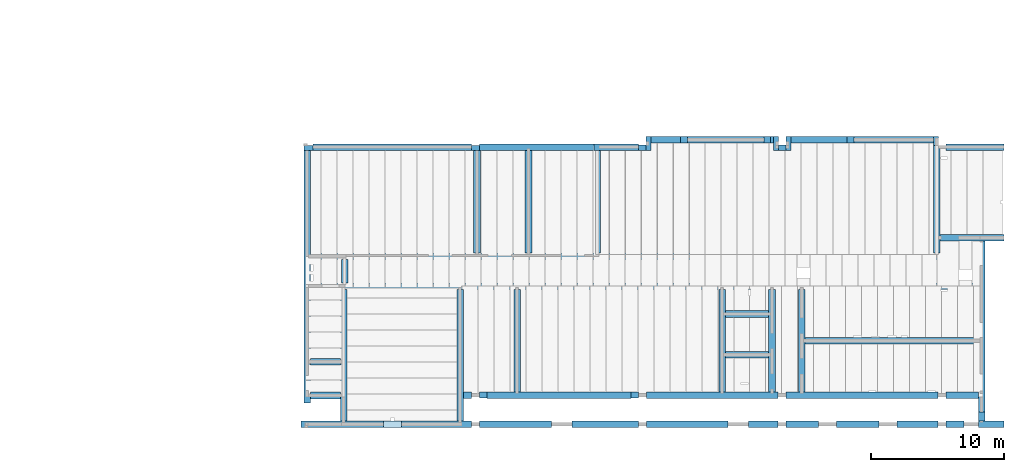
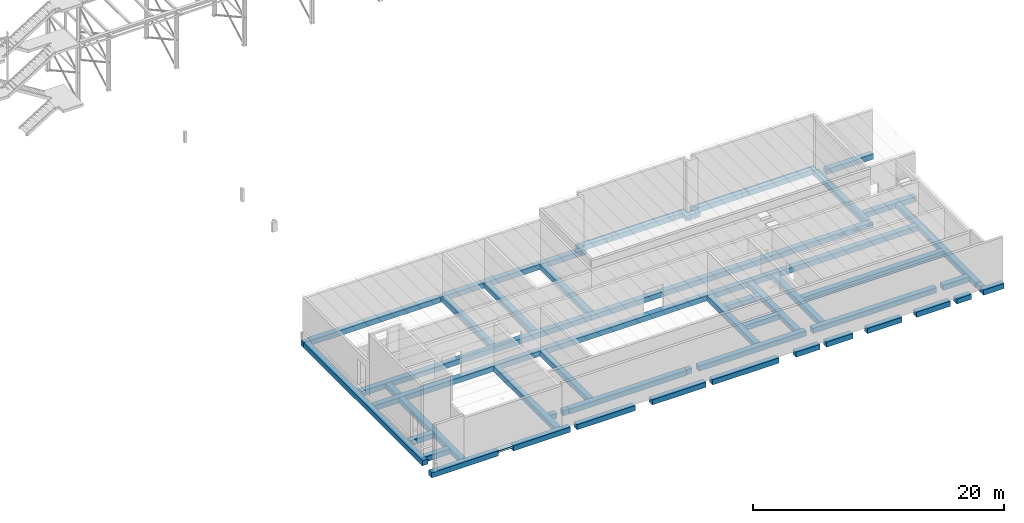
# One storey, part 1 of 24: 62 footings.
"""IFC2X3 building model written with IfcOpenShell, lengths in metres."""

from ifc_helpers import new_model, entity, si_unit, converted_unit, derived_unit, frame, frame_2d, origin, place, context, subcontext, project, spatial, rectangle, extrude, material, element, save


model = new_model("IFC2X3")

# Units and contexts
model_context = context("Model", 3, precision=1e-05, world=origin())
body_context = subcontext(model_context, "Body", "Model", "MODEL_VIEW")
ifc_project = project(units=[si_unit("LENGTHUNIT", "METRE"), si_unit("AREAUNIT", "SQUARE_METRE"), si_unit("VOLUMEUNIT", "CUBIC_METRE"), si_unit("MASSUNIT", "GRAM", prefix="KILO"), converted_unit("PLANEANGLEUNIT", "DEGREE", entity("IfcPlaneAngleMeasure", 0.0174532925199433), si_unit("PLANEANGLEUNIT", "RADIAN"), dimensions=[0, 0, 0, 0, 0, 0, 0]), derived_unit("THERMALTRANSMITTANCEUNIT", [(si_unit("POWERUNIT", "WATT"), 1), (si_unit("THERMODYNAMICTEMPERATUREUNIT", "KELVIN"), -1), (si_unit("LENGTHUNIT", "METRE"), -2)]), derived_unit("VOLUMETRICFLOWRATEUNIT", [(si_unit("LENGTHUNIT", "METRE"), 3), (converted_unit("TIMEUNIT", "hour", entity("IfcTimeMeasure", 3600.0), si_unit("TIMEUNIT", "SECOND"), dimensions=[0, 0, 1, 0, 0, 0, 0]), -1), (si_unit("LENGTHUNIT", "METRE"), -1)])], contexts=[model_context])

# Site, building, storey
site_placement = place(None, origin())
site = spatial("IfcSite", under=ifc_project, at=site_placement, Name="TWP_Speiseverteilzentrum SBW VZ II", CompositionType="ELEMENT")
building_placement = place(site_placement, origin())
building = spatial("IfcBuilding", under=site, at=building_placement, Name="Speiseverteilzentrum SBW VZ II", CompositionType="ELEMENT")
storey_placement = place(building_placement, frame((0.0, 0.0, 0.6957)))
storey = spatial("IfcBuildingStorey", under=building, at=storey_placement, Name="EG_Technik_FFB", CompositionType="ELEMENT", Elevation=0.6957)

# Footings
ifc_material_1 = material(Name="Beton")
footing_1_placement = place(storey_placement, frame((103.855, 35.1799999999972, -0.69), z_axis=(0.0, 0.0, 1.0), x_axis=(-1.0, 0.0, 0.0)))
element("IfcFooting", 1, at=footing_1_placement, inside=storey, material=ifc_material_1, Name="Streifenfundament", PredefinedType="STRIP_FOOTING", context=body_context, shape_type="SweptSolid", body=[
    extrude(rectangle(XDim=0.5, YDim=0.5, at=frame_2d((0.25, 0.25), x_axis=(1.0, 0.0))), frame((0.0, 0.0, 0.0), z_axis=(1.0, 0.0, 0.0), x_axis=(0.0, 1.0, 0.0)), (0.0, 0.0, 1.0), 3.24),
])
ifc_material_2 = material(Name="Beton")
footing_2_placement = place(storey_placement, frame((103.855, 38.2399999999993, -0.69), z_axis=(0.0, 0.0, 1.0), x_axis=(-1.0, 0.0, 0.0)))
element("IfcFooting", 2, at=footing_2_placement, inside=storey, material=ifc_material_2, Name="Streifenfundament", PredefinedType="STRIP_FOOTING", context=body_context, shape_type="SweptSolid", body=[
    extrude(rectangle(XDim=0.5, YDim=0.5, at=frame_2d((0.25, 0.25), x_axis=(1.0, 0.0))), frame((0.0, 0.0, 0.0), z_axis=(1.0, 0.0, 0.0), x_axis=(0.0, 1.0, 0.0)), (0.0, 0.0, 1.0), 3.24),
])
ifc_material_3 = material(Name="Beton")
footing_3_placement = place(storey_placement, frame((121.520000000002, 29.9599999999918, -0.69), z_axis=(0.0, 0.0, 1.0), x_axis=(-1.0, 0.0, 0.0)))
element("IfcFooting", 3, at=footing_3_placement, inside=storey, material=ifc_material_3, Name="Streifenfundament", PredefinedType="STRIP_FOOTING", context=body_context, shape_type="SweptSolid", body=[
    extrude(rectangle(XDim=0.5, YDim=0.5, at=frame_2d((0.25, 0.25), x_axis=(1.0, 0.0))), frame((0.0, 0.0, 0.0), z_axis=(1.0, 0.0, 0.0), x_axis=(0.0, 1.0, 0.0)), (0.0, 0.0, 1.0), 1.89500000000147),
])
ifc_material_4 = material(Name="Beton")
footing_4_placement = place(storey_placement, frame((120.095, 29.9599999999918, -0.69), z_axis=(0.0, 0.0, 1.0), x_axis=(0.0, 1.0, 0.0)))
element("IfcFooting", 4, at=footing_4_placement, inside=storey, material=ifc_material_4, Name="Streifenfundament", PredefinedType="STRIP_FOOTING", context=body_context, shape_type="SweptSolid", body=[
    extrude(rectangle(XDim=0.470000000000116, YDim=0.5, at=frame_2d((0.235000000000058, 0.25), x_axis=(1.0, 0.0))), frame((0.0, 0.0, 0.0), z_axis=(1.0, 0.0, 0.0), x_axis=(0.0, 1.0, 0.0)), (0.0, 0.0, 1.0), 0.690000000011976),
])
ifc_material_5 = material(Name="Beton")
footing_5_placement = place(storey_placement, frame((119.595, 36.2349999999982, -0.69), z_axis=(0.0, 0.0, 1.0), x_axis=(-1.0, 0.0, 0.0)))
element("IfcFooting", 5, at=footing_5_placement, inside=storey, material=ifc_material_5, Name="Streifenfundament", PredefinedType="STRIP_FOOTING", context=body_context, shape_type="SweptSolid", body=[
    extrude(rectangle(XDim=0.5, YDim=0.5, at=frame_2d((0.25, 0.25), x_axis=(1.0, 0.0))), frame((0.0, 0.0, 0.0), z_axis=(1.0, 0.0, 0.0), x_axis=(0.0, 1.0, 0.0)), (0.0, 0.0, 1.0), 13.0),
])
ifc_material_6 = material(Name="Beton")
footing_6_placement = place(storey_placement, frame((103.5, 51.31, -0.7), z_axis=(0.0, 0.0, 1.0), x_axis=(-1.0, 0.0, 0.0)))
element("IfcFooting", 6, at=footing_6_placement, inside=storey, material=ifc_material_6, Name="Streifenfundament", PredefinedType="STRIP_FOOTING", context=body_context, shape_type="SweptSolid", body=[
    extrude(rectangle(XDim=0.5, YDim=0.5, at=frame_2d((0.25, 0.25), x_axis=(1.0, 0.0))), frame((0.0, 0.0, 0.0), z_axis=(1.0, 0.0, 0.0), x_axis=(0.0, 1.0, 0.0)), (0.0, 0.0, 1.0), 5.75),
])
ifc_material_7 = material(Name="Beton")
footing_7_placement = place(storey_placement, frame((81.5750000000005, 29.9599999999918, -0.69), z_axis=(0.0, 0.0, 1.0), x_axis=(-1.0, 0.0, 0.0)))
element("IfcFooting", 7, at=footing_7_placement, inside=storey, material=ifc_material_7, Name="Streifenfundament", PredefinedType="STRIP_FOOTING", context=body_context, shape_type="SweptSolid", body=[
    extrude(rectangle(XDim=0.5, YDim=0.5, at=frame_2d((0.25, 0.25), x_axis=(1.0, 0.0))), frame((0.0, 0.0, 0.0), z_axis=(1.0, 0.0, 0.0), x_axis=(0.0, 1.0, 0.0)), (0.0, 0.0, 1.0), 5.2750000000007),
])
ifc_material_8 = material(Name="Beton")
footing_8_placement = place(storey_placement, frame((87.5516307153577, 29.9599999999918, -0.69), z_axis=(0.0, 0.0, 1.0), x_axis=(-1.0, 0.0, 0.0)))
element("IfcFooting", 8, at=footing_8_placement, inside=storey, material=ifc_material_8, Name="Streifenfundament", PredefinedType="STRIP_FOOTING", context=body_context, shape_type="SweptSolid", body=[
    extrude(rectangle(XDim=0.5, YDim=0.5, at=frame_2d((0.25, 0.25), x_axis=(1.0, 0.0))), frame((0.0, 0.0, 0.0), z_axis=(1.0, 0.0, 0.0), x_axis=(0.0, 1.0, 0.0)), (0.0, 0.0, 1.0), 5.37663071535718),
])
ifc_material_9 = material(Name="Beton")
footing_9_placement = place(storey_placement, frame((81.5750000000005, 32.1399999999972, -0.69), z_axis=(0.0, 0.0, 1.0), x_axis=(-1.0, 0.0, 0.0)))
element("IfcFooting", 9, at=footing_9_placement, inside=storey, material=ifc_material_9, Name="Streifenfundament", PredefinedType="STRIP_FOOTING", context=body_context, shape_type="SweptSolid", body=[
    extrude(rectangle(XDim=0.5, YDim=0.5, at=frame_2d((0.25, 0.25), x_axis=(1.0, 0.0))), frame((0.0, 0.0, 0.0), z_axis=(1.0, 0.0, 0.0), x_axis=(0.0, 1.0, 0.0)), (0.0, 0.0, 1.0), 0.620000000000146),
])
ifc_material_10 = material(Name="Beton")
footing_10_placement = place(storey_placement, frame((82.7250000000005, 32.1399999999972, -0.69), z_axis=(0.0, 0.0, 1.0), x_axis=(-1.0, 0.0, 0.0)))
element("IfcFooting", 10, at=footing_10_placement, inside=storey, material=ifc_material_10, Name="Streifenfundament", PredefinedType="STRIP_FOOTING", context=body_context, shape_type="SweptSolid", body=[
    extrude(rectangle(XDim=0.439999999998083, YDim=0.5, at=frame_2d((0.219999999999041, 0.25), x_axis=(1.0, 0.0))), frame((0.0, 0.0, 0.0), z_axis=(1.0, 0.0, 0.0), x_axis=(0.0, 1.0, 0.0)), (0.0, 0.0, 1.0), 0.55),
])
ifc_material_11 = material(Name="Beton")
footing_11_placement = place(storey_placement, frame((100.8, 29.9599999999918, -0.69), z_axis=(0.0, 0.0, 1.0), x_axis=(-1.0, 0.0, 0.0)))
element("IfcFooting", 11, at=footing_11_placement, inside=storey, material=ifc_material_11, Name="Streifenfundament", PredefinedType="STRIP_FOOTING", context=body_context, shape_type="SweptSolid", body=[
    extrude(rectangle(XDim=0.5, YDim=0.5, at=frame_2d((0.25, 0.25), x_axis=(1.0, 0.0))), frame((0.0, 0.0, 0.0), z_axis=(1.0, 0.0, 0.0), x_axis=(0.0, 1.0, 0.0)), (0.0, 0.0, 1.0), 6.1249999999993),
])
ifc_material_12 = material(Name="Beton")
footing_12_placement = place(storey_placement, frame((94.0750000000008, 29.9599999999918, -0.69), z_axis=(0.0, 0.0, 1.0), x_axis=(-1.0, 0.0, 0.0)))
element("IfcFooting", 12, at=footing_12_placement, inside=storey, material=ifc_material_12, Name="Streifenfundament", PredefinedType="STRIP_FOOTING", context=body_context, shape_type="SweptSolid", body=[
    extrude(rectangle(XDim=0.5, YDim=0.5, at=frame_2d((0.25, 0.25), x_axis=(1.0, 0.0))), frame((0.0, 0.0, 0.0), z_axis=(1.0, 0.0, 0.0), x_axis=(0.0, 1.0, 0.0)), (0.0, 0.0, 1.0), 4.97336928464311),
])
ifc_material_13 = material(Name="Beton")
footing_13_placement = place(storey_placement, frame((94.0750000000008, 32.1399999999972, -0.69), z_axis=(0.0, 0.0, 1.0), x_axis=(-1.0, 0.0, 0.0)))
element("IfcFooting", 13, at=footing_13_placement, inside=storey, material=ifc_material_13, Name="Streifenfundament", PredefinedType="STRIP_FOOTING", context=body_context, shape_type="SweptSolid", body=[
    extrude(rectangle(XDim=0.439999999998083, YDim=0.5, at=frame_2d((0.219999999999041, 0.25), x_axis=(1.0, 0.0))), frame((0.0, 0.0, 0.0), z_axis=(1.0, 0.0, 0.0), x_axis=(0.0, 1.0, 0.0)), (0.0, 0.0, 1.0), 0.55),
])
ifc_material_14 = material(Name="Beton")
footing_14_placement = place(storey_placement, frame((93.5250000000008, 32.1399999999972, -0.69), z_axis=(0.0, 0.0, 1.0), x_axis=(-1.0, 0.0, 0.0)))
element("IfcFooting", 14, at=footing_14_placement, inside=storey, material=ifc_material_14, Name="Streifenfundament", PredefinedType="STRIP_FOOTING", context=body_context, shape_type="SweptSolid", body=[
    extrude(rectangle(XDim=0.5, YDim=0.5, at=frame_2d((0.25, 0.25), x_axis=(1.0, 0.0))), frame((0.0, 0.0, 0.0), z_axis=(1.0, 0.0, 0.0), x_axis=(0.0, 1.0, 0.0)), (0.0, 0.0, 1.0), 10.8000000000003),
])
ifc_material_15 = material(Name="Beton")
footing_15_placement = place(storey_placement, frame((104.575, 29.9599999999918, -0.69), z_axis=(0.0, 0.0, 1.0), x_axis=(-1.0, 0.0, 0.0)))
element("IfcFooting", 15, at=footing_15_placement, inside=storey, material=ifc_material_15, Name="Streifenfundament", PredefinedType="STRIP_FOOTING", context=body_context, shape_type="SweptSolid", body=[
    extrude(rectangle(XDim=0.5, YDim=0.5, at=frame_2d((0.25, 0.25), x_axis=(1.0, 0.0))), frame((0.0, 0.0, 0.0), z_axis=(1.0, 0.0, 0.0), x_axis=(0.0, 1.0, 0.0)), (0.0, 0.0, 1.0), 2.22499999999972),
])
ifc_material_16 = material(Name="Beton")
footing_16_placement = place(storey_placement, frame((104.575, 32.1399999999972, -0.69), z_axis=(0.0, 0.0, 1.0), x_axis=(-1.0, 0.0, 0.0)))
element("IfcFooting", 16, at=footing_16_placement, inside=storey, material=ifc_material_16, Name="Streifenfundament", PredefinedType="STRIP_FOOTING", context=body_context, shape_type="SweptSolid", body=[
    extrude(rectangle(XDim=0.5, YDim=0.5, at=frame_2d((0.25, 0.25), x_axis=(1.0, 0.0))), frame((0.0, 0.0, 0.0), z_axis=(1.0, 0.0, 0.0), x_axis=(0.0, 1.0, 0.0)), (0.0, 0.0, 1.0), 9.89999999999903),
])
ifc_material_17 = material(Name="Beton")
footing_17_placement = place(storey_placement, frame((118.525, 29.9599999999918, -0.69), z_axis=(0.0, 0.0, 1.0), x_axis=(-1.0, 0.0, 0.0)))
element("IfcFooting", 17, at=footing_17_placement, inside=storey, material=ifc_material_17, Name="Streifenfundament", PredefinedType="STRIP_FOOTING", context=body_context, shape_type="SweptSolid", body=[
    extrude(rectangle(XDim=0.5, YDim=0.5, at=frame_2d((0.25, 0.25), x_axis=(1.0, 0.0))), frame((0.0, 0.0, 0.0), z_axis=(1.0, 0.0, 0.0), x_axis=(0.0, 1.0, 0.0)), (0.0, 0.0, 1.0), 1.35000000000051),
])
ifc_material_18 = material(Name="Beton")
footing_18_placement = place(storey_placement, frame((119.595, 32.1399999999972, -0.69), z_axis=(0.0, 0.0, 1.0), x_axis=(-1.0, 0.0, 0.0)))
element("IfcFooting", 18, at=footing_18_placement, inside=storey, material=ifc_material_18, Name="Streifenfundament", PredefinedType="STRIP_FOOTING", context=body_context, shape_type="SweptSolid", body=[
    extrude(rectangle(XDim=0.5, YDim=0.5, at=frame_2d((0.25, 0.25), x_axis=(1.0, 0.0))), frame((0.0, 0.0, 0.0), z_axis=(1.0, 0.0, 0.0), x_axis=(0.0, 1.0, 0.0)), (0.0, 0.0, 1.0), 2.42000000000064),
])
ifc_material_19 = material(Name="Beton")
footing_19_placement = place(storey_placement, frame((116.575, 29.9599999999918, -0.69), z_axis=(0.0, 0.0, 1.0), x_axis=(-1.0, 0.0, 0.0)))
element("IfcFooting", 19, at=footing_19_placement, inside=storey, material=ifc_material_19, Name="Streifenfundament", PredefinedType="STRIP_FOOTING", context=body_context, shape_type="SweptSolid", body=[
    extrude(rectangle(XDim=0.5, YDim=0.5, at=frame_2d((0.25, 0.25), x_axis=(1.0, 0.0))), frame((0.0, 0.0, 0.0), z_axis=(1.0, 0.0, 0.0), x_axis=(0.0, 1.0, 0.0)), (0.0, 0.0, 1.0), 3.09999999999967),
])
ifc_material_20 = material(Name="Beton")
footing_20_placement = place(storey_placement, frame((116.575, 32.1399999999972, -0.69), z_axis=(0.0, 0.0, 1.0), x_axis=(-1.0, 0.0, 0.0)))
element("IfcFooting", 20, at=footing_20_placement, inside=storey, material=ifc_material_20, Name="Streifenfundament", PredefinedType="STRIP_FOOTING", context=body_context, shape_type="SweptSolid", body=[
    extrude(rectangle(XDim=0.5, YDim=0.5, at=frame_2d((0.25, 0.25), x_axis=(1.0, 0.0))), frame((0.0, 0.0, 0.0), z_axis=(1.0, 0.0, 0.0), x_axis=(0.0, 1.0, 0.0)), (0.0, 0.0, 1.0), 11.3999999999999),
])
ifc_material_21 = material(Name="Beton")
footing_21_placement = place(storey_placement, frame((121.520000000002, 50.7599999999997, -0.69), z_axis=(0.0, 0.0, 1.0), x_axis=(-1.0, 0.0, 0.0)))
element("IfcFooting", 21, at=footing_21_placement, inside=storey, material=ifc_material_21, Name="Streifenfundament", PredefinedType="STRIP_FOOTING", context=body_context, shape_type="SweptSolid", body=[
    extrude(rectangle(XDim=0.5, YDim=0.5, at=frame_2d((0.25, 0.25), x_axis=(1.0, 0.0))), frame((0.0, 0.0, 0.0), z_axis=(1.0, 0.0, 0.0), x_axis=(0.0, 1.0, 0.0)), (0.0, 0.0, 1.0), 4.34500000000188),
])
ifc_material_22 = material(Name="Beton")
footing_22_placement = place(storey_placement, frame((116.59, 50.6499999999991, -0.7), z_axis=(0.0, 0.0, 1.0), x_axis=(0.0, 1.0, 0.0)))
element("IfcFooting", 22, at=footing_22_placement, inside=storey, material=ifc_material_22, Name="Streifenfundament", PredefinedType="STRIP_FOOTING", context=body_context, shape_type="SweptSolid", body=[
    extrude(rectangle(XDim=0.365000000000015, YDim=0.5, at=frame_2d((0.182500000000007, 0.25), x_axis=(1.0, 0.0))), frame((0.0, 0.0, 0.0), z_axis=(1.0, 0.0, 0.0), x_axis=(0.0, 1.0, 0.0)), (0.0, 0.0, 1.0), 0.660000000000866),
])
ifc_material_23 = material(Name="Beton")
footing_23_placement = place(storey_placement, frame((116.725, 42.5699999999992, -0.7), z_axis=(0.0, 0.0, 1.0), x_axis=(0.0, 1.0, 0.0)))
element("IfcFooting", 23, at=footing_23_placement, inside=storey, material=ifc_material_23, Name="Streifenfundament", PredefinedType="STRIP_FOOTING", context=body_context, shape_type="SweptSolid", body=[
    extrude(rectangle(XDim=0.5, YDim=0.5, at=frame_2d((0.25, 0.25), x_axis=(1.0, 0.0))), frame((0.0, 0.0, 0.0), z_axis=(1.0, 0.0, 0.0), x_axis=(0.0, 1.0, 0.0)), (0.0, 0.0, 1.0), 8.07999999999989),
])
ifc_material_24 = material(Name="Beton")
footing_24_placement = place(storey_placement, frame((121.520000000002, 43.9549999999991, -0.69), z_axis=(0.0, 0.0, 1.0), x_axis=(-1.0, 0.0, 0.0)))
element("IfcFooting", 24, at=footing_24_placement, inside=storey, material=ifc_material_24, Name="Streifenfundament", PredefinedType="STRIP_FOOTING", context=body_context, shape_type="SweptSolid", body=[
    extrude(rectangle(XDim=0.5, YDim=0.5, at=frame_2d((0.25, 0.25), x_axis=(1.0, 0.0))), frame((0.0, 0.0, 0.0), z_axis=(1.0, 0.0, 0.0), x_axis=(0.0, 1.0, 0.0)), (0.0, 0.0, 1.0), 4.79500000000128),
])
ifc_material_25 = material(Name="Beton")
footing_25_placement = place(storey_placement, frame((116.225, 51.31, -0.7), z_axis=(0.0, 0.0, 1.0), x_axis=(-1.0, 0.0, 0.0)))
element("IfcFooting", 25, at=footing_25_placement, inside=storey, material=ifc_material_25, Name="Streifenfundament", PredefinedType="STRIP_FOOTING", context=body_context, shape_type="SweptSolid", body=[
    extrude(rectangle(XDim=0.5, YDim=0.5, at=frame_2d((0.25, 0.25), x_axis=(1.0, 0.0))), frame((0.0, 0.0, 0.0), z_axis=(1.0, 0.0, 0.0), x_axis=(0.0, 1.0, 0.0)), (0.0, 0.0, 1.0), 5.97500000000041),
])
ifc_material_26 = material(Name="Beton")
footing_26_placement = place(storey_placement, frame((110.25, 51.2999999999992, -0.7), z_axis=(0.0, 0.0, 1.0), x_axis=(-1.0, 0.0, 0.0)))
element("IfcFooting", 26, at=footing_26_placement, inside=storey, material=ifc_material_26, Name="Streifenfundament", PredefinedType="STRIP_FOOTING", context=body_context, shape_type="SweptSolid", body=[
    extrude(rectangle(XDim=0.489999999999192, YDim=0.5, at=frame_2d((0.244999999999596, 0.25), x_axis=(1.0, 0.0))), frame((0.0, 0.0, 0.0), z_axis=(1.0, 0.0, 0.0), x_axis=(0.0, 1.0, 0.0)), (0.0, 0.0, 1.0), 0.5),
])
ifc_material_27 = material(Name="Beton")
footing_27_placement = place(storey_placement, frame((104.0, 51.2999999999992, -0.7), z_axis=(0.0, 0.0, 1.0), x_axis=(-1.0, 0.0, 0.0)))
element("IfcFooting", 27, at=footing_27_placement, inside=storey, material=ifc_material_27, Name="Streifenfundament", PredefinedType="STRIP_FOOTING", context=body_context, shape_type="SweptSolid", body=[
    extrude(rectangle(XDim=0.489999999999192, YDim=0.5, at=frame_2d((0.244999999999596, 0.25), x_axis=(1.0, 0.0))), frame((0.0, 0.0, 0.0), z_axis=(1.0, 0.0, 0.0), x_axis=(0.0, 1.0, 0.0)), (0.0, 0.0, 1.0), 0.5),
])
ifc_material_28 = material(Name="Beton")
footing_28_placement = place(storey_placement, frame((105.144999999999, 51.31, -0.7), z_axis=(0.0, 0.0, 1.0), x_axis=(-1.35999207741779e-14, -1.0, 0.0)))
element("IfcFooting", 28, at=footing_28_placement, inside=storey, material=ifc_material_28, Name="Streifenfundament", PredefinedType="STRIP_FOOTING", context=body_context, shape_type="SweptSolid", body=[
    extrude(rectangle(XDim=0.389999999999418, YDim=0.5, at=frame_2d((0.194999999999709, 0.25), x_axis=(1.0, 0.0))), frame((0.0, 0.0, 0.0), z_axis=(1.0, 0.0, 0.0), x_axis=(0.0, 1.0, 0.0)), (0.0, 0.0, 1.0), 1.06999999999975),
])
ifc_material_29 = material(Name="Beton")
footing_29_placement = place(storey_placement, frame((105.144999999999, 50.6799999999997, -0.7), z_axis=(0.0, 0.0, 1.0), x_axis=(-1.0, 0.0, 0.0)))
element("IfcFooting", 29, at=footing_29_placement, inside=storey, material=ifc_material_29, Name="Streifenfundament", PredefinedType="STRIP_FOOTING", context=body_context, shape_type="SweptSolid", body=[
    extrude(rectangle(XDim=0.439999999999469, YDim=0.5, at=frame_2d((0.219999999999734, 0.25), x_axis=(1.0, 0.0))), frame((0.0, 0.0, 0.0), z_axis=(1.0, 0.0, 0.0), x_axis=(0.0, 1.0, 0.0)), (0.0, 0.0, 1.0), 0.539999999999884),
])
ifc_material_30 = material(Name="Beton")
footing_30_placement = place(storey_placement, frame((104.214999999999, 51.31, -0.7), z_axis=(0.0, 0.0, 1.0), x_axis=(-1.35999207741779e-14, -1.0, 0.0)))
element("IfcFooting", 30, at=footing_30_placement, inside=storey, material=ifc_material_30, Name="Streifenfundament", PredefinedType="STRIP_FOOTING", context=body_context, shape_type="SweptSolid", body=[
    extrude(rectangle(XDim=0.390000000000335, YDim=0.5, at=frame_2d((0.195000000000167, 0.25), x_axis=(1.0, 0.0))), frame((0.0, 0.0, 0.0), z_axis=(1.0, 0.0, 0.0), x_axis=(0.0, 1.0, 0.0)), (0.0, 0.0, 1.0), 1.06999999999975),
])
ifc_material_31 = material(Name="Beton")
footing_31_placement = place(storey_placement, frame((104.214999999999, 51.31, -0.7), z_axis=(0.0, 0.0, 1.0), x_axis=(-1.0, 0.0, 0.0)))
element("IfcFooting", 31, at=footing_31_placement, inside=storey, material=ifc_material_31, Name="Streifenfundament", PredefinedType="STRIP_FOOTING", context=body_context, shape_type="SweptSolid", body=[
    extrude(rectangle(XDim=0.5, YDim=0.5, at=frame_2d((0.25, 0.25), x_axis=(1.0, 0.0))), frame((0.0, 0.0, 0.0), z_axis=(1.0, 0.0, 0.0), x_axis=(0.0, 1.0, 0.0)), (0.0, 0.0, 1.0), 0.214999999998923),
])
ifc_material_32 = material(Name="Beton")
footing_32_placement = place(storey_placement, frame((109.75, 51.31, -0.7), z_axis=(0.0, 0.0, 1.0), x_axis=(-1.0, 0.0, 0.0)))
element("IfcFooting", 32, at=footing_32_placement, inside=storey, material=ifc_material_32, Name="Streifenfundament", PredefinedType="STRIP_FOOTING", context=body_context, shape_type="SweptSolid", body=[
    extrude(rectangle(XDim=0.5, YDim=0.5, at=frame_2d((0.25, 0.25), x_axis=(1.0, 0.0))), frame((0.0, 0.0, 0.0), z_axis=(1.0, 0.0, 0.0), x_axis=(0.0, 1.0, 0.0)), (0.0, 0.0, 1.0), 4.21500000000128),
])
ifc_material_33 = material(Name="Beton")
footing_33_placement = place(storey_placement, frame((97.7500000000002, 51.2999999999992, -0.7), z_axis=(0.0, 0.0, 1.0), x_axis=(-1.0, 0.0, 0.0)))
element("IfcFooting", 33, at=footing_33_placement, inside=storey, material=ifc_material_33, Name="Streifenfundament", PredefinedType="STRIP_FOOTING", context=body_context, shape_type="SweptSolid", body=[
    extrude(rectangle(XDim=0.489999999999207, YDim=0.5, at=frame_2d((0.244999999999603, 0.25), x_axis=(1.0, 0.0))), frame((0.0, 0.0, 0.0), z_axis=(1.0, 0.0, 0.0), x_axis=(0.0, 1.0, 0.0)), (0.0, 0.0, 1.0), 0.5),
])
ifc_material_34 = material(Name="Beton")
footing_34_placement = place(storey_placement, frame((94.6516331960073, 51.31, -0.7), z_axis=(0.0, 0.0, 1.0), x_axis=(-1.3858966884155e-14, -1.0, 0.0)))
element("IfcFooting", 34, at=footing_34_placement, inside=storey, material=ifc_material_34, Name="Streifenfundament", PredefinedType="STRIP_FOOTING", context=body_context, shape_type="SweptSolid", body=[
    extrude(rectangle(XDim=0.396633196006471, YDim=0.5, at=frame_2d((0.198316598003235, 0.25), x_axis=(1.0, 0.0))), frame((0.0, 0.0, 0.0), z_axis=(1.0, 0.0, 0.0), x_axis=(0.0, 1.0, 0.0)), (0.0, 0.0, 1.0), 1.0500000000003),
])
ifc_material_35 = material(Name="Beton")
footing_35_placement = place(storey_placement, frame((94.6516331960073, 50.6733668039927, -0.7), z_axis=(0.0, 0.0, 1.0), x_axis=(-1.0, 0.0, 0.0)))
element("IfcFooting", 35, at=footing_35_placement, inside=storey, material=ifc_material_35, Name="Streifenfundament", PredefinedType="STRIP_FOOTING", context=body_context, shape_type="SweptSolid", body=[
    extrude(rectangle(XDim=0.413366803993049, YDim=0.5, at=frame_2d((0.206683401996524, 0.25), x_axis=(1.0, 0.0))), frame((0.0, 0.0, 0.0), z_axis=(1.0, 0.0, 0.0), x_axis=(0.0, 1.0, 0.0)), (0.0, 0.0, 1.0), 0.553266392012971),
])
ifc_material_36 = material(Name="Beton")
footing_36_placement = place(storey_placement, frame((97.2500000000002, 51.31, -0.7), z_axis=(0.0, 0.0, 1.0), x_axis=(-1.0, 0.0, 0.0)))
element("IfcFooting", 36, at=footing_36_placement, inside=storey, material=ifc_material_36, Name="Streifenfundament", PredefinedType="STRIP_FOOTING", context=body_context, shape_type="SweptSolid", body=[
    extrude(rectangle(XDim=0.5, YDim=0.5, at=frame_2d((0.25, 0.25), x_axis=(1.0, 0.0))), frame((0.0, 0.0, 0.0), z_axis=(1.0, 0.0, 0.0), x_axis=(0.0, 1.0, 0.0)), (0.0, 0.0, 1.0), 2.20173360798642),
])
ifc_material_37 = material(Name="Beton")
footing_37_placement = place(storey_placement, frame((90.7500000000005, 50.7599999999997, -0.69), z_axis=(0.0, 0.0, 1.0), x_axis=(-1.0, 0.0, 0.0)))
element("IfcFooting", 37, at=footing_37_placement, inside=storey, material=ifc_material_37, Name="Streifenfundament", PredefinedType="STRIP_FOOTING", context=body_context, shape_type="SweptSolid", body=[
    extrude(rectangle(XDim=0.5, YDim=0.5, at=frame_2d((0.25, 0.25), x_axis=(1.0, 0.0))), frame((0.0, 0.0, 0.0), z_axis=(1.0, 0.0, 0.0), x_axis=(0.0, 1.0, 0.0)), (0.0, 0.0, 1.0), 8.57499999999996),
])
ifc_material_38 = material(Name="Beton")
footing_38_placement = place(storey_placement, frame((86.0900000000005, 42.5699999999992, -0.69), z_axis=(0.0, 0.0, 1.0), x_axis=(0.0, 1.0, 0.0)))
element("IfcFooting", 38, at=footing_38_placement, inside=storey, material=ifc_material_38, Name="Streifenfundament", PredefinedType="STRIP_FOOTING", context=body_context, shape_type="SweptSolid", body=[
    extrude(rectangle(XDim=0.5, YDim=0.5, at=frame_2d((0.25, 0.25), x_axis=(1.0, 0.0))), frame((0.0, 0.0, 0.0), z_axis=(1.0, 0.0, 0.0), x_axis=(0.0, 1.0, 0.0)), (0.0, 0.0, 1.0), 7.69000000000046),
])
ifc_material_39 = material(Name="Beton")
footing_39_placement = place(storey_placement, frame((94.0983668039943, 50.7599999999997, -0.7), z_axis=(0.0, 0.0, 1.0), x_axis=(-1.0, 0.0, 0.0)))
element("IfcFooting", 39, at=footing_39_placement, inside=storey, material=ifc_material_39, Name="Streifenfundament", PredefinedType="STRIP_FOOTING", context=body_context, shape_type="SweptSolid", body=[
    extrude(rectangle(XDim=0.5, YDim=0.5, at=frame_2d((0.25, 0.25), x_axis=(1.0, 0.0))), frame((0.0, 0.0, 0.0), z_axis=(1.0, 0.0, 0.0), x_axis=(0.0, 1.0, 0.0)), (0.0, 0.0, 1.0), 3.34836680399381),
])
ifc_material_40 = material(Name="Beton")
footing_40_placement = place(storey_placement, frame((82.2250000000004, 42.5699999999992, -0.69), z_axis=(0.0, 0.0, 1.0), x_axis=(0.0, 1.0, 0.0)))
element("IfcFooting", 40, at=footing_40_placement, inside=storey, material=ifc_material_40, Name="Streifenfundament", PredefinedType="STRIP_FOOTING", context=body_context, shape_type="SweptSolid", body=[
    extrude(rectangle(XDim=0.5, YDim=0.5, at=frame_2d((0.25, 0.25), x_axis=(1.0, 0.0))), frame((0.0, 0.0, 0.0), z_axis=(1.0, 0.0, 0.0), x_axis=(0.0, 1.0, 0.0)), (0.0, 0.0, 1.0), 7.69000000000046),
])
ifc_material_41 = material(Name="Beton")
footing_41_placement = place(storey_placement, frame((81.5750000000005, 50.7599999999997, -0.69), z_axis=(0.0, 0.0, 1.0), x_axis=(-1.0, 0.0, 0.0)))
element("IfcFooting", 41, at=footing_41_placement, inside=storey, material=ifc_material_41, Name="Streifenfundament", PredefinedType="STRIP_FOOTING", context=body_context, shape_type="SweptSolid", body=[
    extrude(rectangle(XDim=0.5, YDim=0.5, at=frame_2d((0.25, 0.25), x_axis=(1.0, 0.0))), frame((0.0, 0.0, 0.0), z_axis=(1.0, 0.0, 0.0), x_axis=(0.0, 1.0, 0.0)), (0.0, 0.0, 1.0), 11.9000000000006),
])
ifc_material_42 = material(Name="Beton")
footing_42_placement = place(storey_placement, frame((82.1750000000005, 50.6499999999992, -0.69), z_axis=(0.0, 0.0, 1.0), x_axis=(-1.0, 0.0, 0.0)))
element("IfcFooting", 42, at=footing_42_placement, inside=storey, material=ifc_material_42, Name="Streifenfundament", PredefinedType="STRIP_FOOTING", context=body_context, shape_type="SweptSolid", body=[
    extrude(rectangle(XDim=0.389999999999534, YDim=0.5, at=frame_2d((0.194999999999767, 0.25), x_axis=(1.0, 0.0))), frame((0.0, 0.0, 0.0), z_axis=(1.0, 0.0, 0.0), x_axis=(0.0, 1.0, 0.0)), (0.0, 0.0, 1.0), 0.6),
])
ifc_material_43 = material(Name="Beton")
footing_43_placement = place(storey_placement, frame((107.6, 29.9599999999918, -0.69), z_axis=(0.0, 0.0, 1.0), x_axis=(-1.0, 0.0, 0.0)))
element("IfcFooting", 43, at=footing_43_placement, inside=storey, material=ifc_material_43, Name="Streifenfundament", PredefinedType="STRIP_FOOTING", context=body_context, shape_type="SweptSolid", body=[
    extrude(rectangle(XDim=0.5, YDim=0.5, at=frame_2d((0.25, 0.25), x_axis=(1.0, 0.0))), frame((0.0, 0.0, 0.0), z_axis=(1.0, 0.0, 0.0), x_axis=(0.0, 1.0, 0.0)), (0.0, 0.0, 1.0), 2.4249999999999),
])
ifc_material_44 = material(Name="Beton")
footing_44_placement = place(storey_placement, frame((112.125, 29.9599999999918, -0.69), z_axis=(0.0, 0.0, 1.0), x_axis=(-1.0, 0.0, 0.0)))
element("IfcFooting", 44, at=footing_44_placement, inside=storey, material=ifc_material_44, Name="Streifenfundament", PredefinedType="STRIP_FOOTING", context=body_context, shape_type="SweptSolid", body=[
    extrude(rectangle(XDim=0.5, YDim=0.5, at=frame_2d((0.25, 0.25), x_axis=(1.0, 0.0))), frame((0.0, 0.0, 0.0), z_axis=(1.0, 0.0, 0.0), x_axis=(0.0, 1.0, 0.0)), (0.0, 0.0, 1.0), 3.17500000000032),
])
ifc_material_45 = material(Name="Beton")
footing_45_placement = place(storey_placement, frame((106.595, 32.1399999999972, -0.69), z_axis=(0.0, 0.0, 1.0), x_axis=(0.0, 1.0, 0.0)))
element("IfcFooting", 45, at=footing_45_placement, inside=storey, material=ifc_material_45, Name="Streifenfundament", PredefinedType="STRIP_FOOTING", context=body_context, shape_type="SweptSolid", body=[
    extrude(rectangle(XDim=0.5, YDim=0.5, at=frame_2d((0.25, 0.25), x_axis=(1.0, 0.0))), frame((0.0, 0.0, 0.0), z_axis=(1.0, 0.0, 0.0), x_axis=(0.0, 1.0, 0.0)), (0.0, 0.0, 1.0), 7.69000000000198),
])
ifc_material_46 = material(Name="Beton")
footing_46_placement = place(storey_placement, frame((120.095, 30.6500000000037, -0.69), z_axis=(0.0, 0.0, 1.0), x_axis=(0.0, 1.0, 0.0)))
element("IfcFooting", 46, at=footing_46_placement, inside=storey, material=ifc_material_46, Name="Streifenfundament", PredefinedType="STRIP_FOOTING", context=body_context, shape_type="SweptSolid", body=[
    extrude(rectangle(XDim=0.5, YDim=0.5, at=frame_2d((0.25, 0.25), x_axis=(1.0, 0.0))), frame((0.0, 0.0, 0.0), z_axis=(1.0, 0.0, 0.0), x_axis=(0.0, 1.0, 0.0)), (0.0, 0.0, 1.0), 12.8049999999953),
])
ifc_material_47 = material(Name="Beton")
footing_47_placement = place(storey_placement, frame((100.615, 32.1399999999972, -0.69), z_axis=(0.0, 0.0, 1.0), x_axis=(0.0, 1.0, 0.0)))
element("IfcFooting", 47, at=footing_47_placement, inside=storey, material=ifc_material_47, Name="Streifenfundament", PredefinedType="STRIP_FOOTING", context=body_context, shape_type="SweptSolid", body=[
    extrude(rectangle(XDim=0.5, YDim=0.5, at=frame_2d((0.25, 0.25), x_axis=(1.0, 0.0))), frame((0.0, 0.0, 0.0), z_axis=(1.0, 0.0, 0.0), x_axis=(0.0, 1.0, 0.0)), (0.0, 0.0, 1.0), 7.69000000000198),
])
ifc_material_48 = material(Name="Beton")
footing_48_placement = place(storey_placement, frame((104.355, 32.1399999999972, -0.69), z_axis=(0.0, 0.0, 1.0), x_axis=(0.0, 1.0, 0.0)))
element("IfcFooting", 48, at=footing_48_placement, inside=storey, material=ifc_material_48, Name="Streifenfundament", PredefinedType="STRIP_FOOTING", context=body_context, shape_type="SweptSolid", body=[
    extrude(rectangle(XDim=0.5, YDim=0.5, at=frame_2d((0.25, 0.25), x_axis=(1.0, 0.0))), frame((0.0, 0.0, 0.0), z_axis=(1.0, 0.0, 0.0), x_axis=(0.0, 1.0, 0.0)), (0.0, 0.0, 1.0), 7.69000000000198),
])
ifc_material_49 = material(Name="Beton")
footing_49_placement = place(storey_placement, frame((80.9550000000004, 29.9599999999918, -0.69), z_axis=(0.0, 0.0, 1.0), x_axis=(0.0, 1.0, 0.0)))
element("IfcFooting", 49, at=footing_49_placement, inside=storey, material=ifc_material_49, Name="Streifenfundament", PredefinedType="STRIP_FOOTING", context=body_context, shape_type="SweptSolid", body=[
    extrude(rectangle(XDim=0.5, YDim=0.5, at=frame_2d((0.25, 0.25), x_axis=(1.0, 0.0))), frame((0.0, 0.0, 0.0), z_axis=(1.0, 0.0, 0.0), x_axis=(0.0, 1.0, 0.0)), (0.0, 0.0, 1.0), 9.87000000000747),
])
ifc_material_50 = material(Name="Beton")
footing_50_placement = place(storey_placement, frame((85.2400000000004, 32.1399999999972, -0.69), z_axis=(0.0, 0.0, 1.0), x_axis=(0.0, 1.0, 0.0)))
element("IfcFooting", 50, at=footing_50_placement, inside=storey, material=ifc_material_50, Name="Streifenfundament", PredefinedType="STRIP_FOOTING", context=body_context, shape_type="SweptSolid", body=[
    extrude(rectangle(XDim=0.5, YDim=0.5, at=frame_2d((0.25, 0.25), x_axis=(1.0, 0.0))), frame((0.0, 0.0, 0.0), z_axis=(1.0, 0.0, 0.0), x_axis=(0.0, 1.0, 0.0)), (0.0, 0.0, 1.0), 7.69000000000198),
])
ifc_material_51 = material(Name="Beton")
footing_51_placement = place(storey_placement, frame((69.4750000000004, 34.1599999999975, -0.69)))
element("IfcFooting", 51, at=footing_51_placement, inside=storey, material=ifc_material_51, Name="Streifenfundament", PredefinedType="STRIP_FOOTING", context=body_context, shape_type="SweptSolid", body=[
    extrude(rectangle(XDim=0.5, YDim=0.5, at=frame_2d((0.25, 0.25), x_axis=(1.0, 0.0))), frame((0.0, 0.0, 0.0), z_axis=(1.0, 0.0, 0.0), x_axis=(0.0, 1.0, 0.0)), (0.0, 0.0, 1.0), 2.23999999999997),
])
ifc_material_52 = material(Name="Beton")
footing_52_placement = place(storey_placement, frame((69.6749999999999, 50.6499999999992, -0.69), z_axis=(0.0, 0.0, 1.0), x_axis=(-1.0, 0.0, 0.0)))
element("IfcFooting", 52, at=footing_52_placement, inside=storey, material=ifc_material_52, Name="Streifenfundament", PredefinedType="STRIP_FOOTING", context=body_context, shape_type="SweptSolid", body=[
    extrude(rectangle(XDim=0.389999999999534, YDim=0.5, at=frame_2d((0.194999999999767, 0.25), x_axis=(1.0, 0.0))), frame((0.0, 0.0, 0.0), z_axis=(1.0, 0.0, 0.0), x_axis=(0.0, 1.0, 0.0)), (0.0, 0.0, 1.0), 0.699999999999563),
])
ifc_material_53 = material(Name="Beton")
footing_53_placement = place(storey_placement, frame((69.4750000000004, 31.6222526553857, -0.69)))
element("IfcFooting", 53, at=footing_53_placement, inside=storey, material=ifc_material_53, Name="Streifenfundament", PredefinedType="STRIP_FOOTING", context=body_context, shape_type="SweptSolid", body=[
    extrude(rectangle(XDim=0.5, YDim=0.5, at=frame_2d((0.25, 0.25), x_axis=(1.0, 0.0))), frame((0.0, 0.0, 0.0), z_axis=(1.0, 0.0, 0.0), x_axis=(0.0, 1.0, 0.0)), (0.0, 0.0, 1.0), 2.23999999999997),
])
ifc_material_54 = material(Name="Beton")
footing_54_placement = place(storey_placement, frame((69.4750000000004, 31.2999999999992, -0.69), z_axis=(0.0, 0.0, 1.0), x_axis=(0.0, 1.0, 0.0)))
element("IfcFooting", 54, at=footing_54_placement, inside=storey, material=ifc_material_54, Name="Streifenfundament", PredefinedType="STRIP_FOOTING", context=body_context, shape_type="SweptSolid", body=[
    extrude(rectangle(XDim=0.5, YDim=0.5, at=frame_2d((0.25, 0.25), x_axis=(1.0, 0.0))), frame((0.0, 0.0, 0.0), z_axis=(1.0, 0.0, 0.0), x_axis=(0.0, 1.0, 0.0)), (0.0, 0.0, 1.0), 18.9600000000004),
])
ifc_material_55 = material(Name="Beton")
footing_55_placement = place(storey_placement, frame((72.2950000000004, 40.3299999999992, -0.69), z_axis=(0.0, 0.0, 1.0), x_axis=(0.0, 1.0, 0.0)))
element("IfcFooting", 55, at=footing_55_placement, inside=storey, material=ifc_material_55, Name="Streifenfundament", PredefinedType="STRIP_FOOTING", context=body_context, shape_type="SweptSolid", body=[
    extrude(rectangle(XDim=0.5, YDim=0.5, at=frame_2d((0.25, 0.25), x_axis=(1.0, 0.0))), frame((0.0, 0.0, 0.0), z_axis=(1.0, 0.0, 0.0), x_axis=(0.0, 1.0, 0.0)), (0.0, 0.0, 1.0), 1.74),
])
ifc_material_56 = material(Name="Beton")
footing_56_placement = place(storey_placement, frame((119.595, 40.3299999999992, -0.69), z_axis=(0.0, 0.0, 1.0), x_axis=(-1.0, 0.0, 0.0)))
element("IfcFooting", 56, at=footing_56_placement, inside=storey, material=ifc_material_56, Name="Streifenfundament", PredefinedType="STRIP_FOOTING", context=body_context, shape_type="SweptSolid", body=[
    extrude(rectangle(XDim=0.5, YDim=0.5, at=frame_2d((0.25, 0.25), x_axis=(1.0, 0.0))), frame((0.0, 0.0, 0.0), z_axis=(1.0, 0.0, 0.0), x_axis=(0.0, 1.0, 0.0)), (0.0, 0.0, 1.0), 50.1199999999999),
])
ifc_material_57 = material(Name="Beton")
footing_57_placement = place(storey_placement, frame((90.7500000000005, 42.5699999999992, -0.69), z_axis=(0.0, 0.0, 1.0), x_axis=(-1.0, 0.0, 0.0)))
element("IfcFooting", 57, at=footing_57_placement, inside=storey, material=ifc_material_57, Name="Streifenfundament", PredefinedType="STRIP_FOOTING", context=body_context, shape_type="SweptSolid", body=[
    extrude(rectangle(XDim=0.5, YDim=0.5, at=frame_2d((0.25, 0.25), x_axis=(1.0, 0.0))), frame((0.0, 0.0, 0.0), z_axis=(1.0, 0.0, 0.0), x_axis=(0.0, 1.0, 0.0)), (0.0, 0.0, 1.0), 21.2750000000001),
])
ifc_material_58 = material(Name="Beton")
footing_58_placement = place(storey_placement, frame((91.2500000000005, 42.5699999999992, -0.7), z_axis=(0.0, 0.0, 1.0), x_axis=(0.0, 1.0, 0.0)))
element("IfcFooting", 58, at=footing_58_placement, inside=storey, material=ifc_material_58, Name="Streifenfundament", PredefinedType="STRIP_FOOTING", context=body_context, shape_type="SweptSolid", body=[
    extrude(rectangle(XDim=0.5, YDim=0.5, at=frame_2d((0.25, 0.25), x_axis=(1.0, 0.0))), frame((0.0, 0.0, 0.0), z_axis=(1.0, 0.0, 0.0), x_axis=(0.0, 1.0, 0.0)), (0.0, 0.0, 1.0), 7.69000000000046),
])
ifc_material_59 = material(Name="Beton")
footing_59_placement = place(storey_placement, frame((116.725, 42.5699999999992, -0.7), z_axis=(0.0, 0.0, 1.0), x_axis=(-1.0, 0.0, 0.0)))
element("IfcFooting", 59, at=footing_59_placement, inside=storey, material=ifc_material_59, Name="Streifenfundament", PredefinedType="STRIP_FOOTING", context=body_context, shape_type="SweptSolid", body=[
    extrude(rectangle(XDim=0.5, YDim=0.5, at=frame_2d((0.25, 0.25), x_axis=(1.0, 0.0))), frame((0.0, 0.0, 0.0), z_axis=(1.0, 0.0, 0.0), x_axis=(0.0, 1.0, 0.0)), (0.0, 0.0, 1.0), 25.9749999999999),
])
ifc_material_60 = material(Name="Beton")
footing_60_placement = place(storey_placement, frame((74.9499999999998, 29.9599999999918, -0.69), z_axis=(0.0, 0.0, 1.0), x_axis=(-1.0, 0.0, 0.0)))
element("IfcFooting", 60, at=footing_60_placement, inside=storey, material=ifc_material_60, Name="Streifenfundament", PredefinedType="STRIP_FOOTING", context=body_context, shape_type="SweptSolid", body=[
    extrude(rectangle(XDim=0.5, YDim=0.5, at=frame_2d((0.25, 0.25), x_axis=(1.0, 0.0))), frame((0.0, 0.0, 0.0), z_axis=(1.0, 0.0, 0.0), x_axis=(0.0, 1.0, 0.0)), (0.0, 0.0, 1.0), 6.17499999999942),
])
ifc_material_61 = material(Name="Beton")
footing_61_placement = place(storey_placement, frame((72.2150000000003, 29.9599999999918, -0.69), z_axis=(0.0, 0.0, 1.0), x_axis=(0.0, 1.0, 0.0)))
element("IfcFooting", 61, at=footing_61_placement, inside=storey, material=ifc_material_61, Name="Streifenfundament", PredefinedType="STRIP_FOOTING", context=body_context, shape_type="SweptSolid", body=[
    extrude(rectangle(XDim=0.5, YDim=0.5, at=frame_2d((0.25, 0.25), x_axis=(1.0, 0.0))), frame((0.0, 0.0, 0.0), z_axis=(1.0, 0.0, 0.0), x_axis=(0.0, 1.0, 0.0)), (0.0, 0.0, 1.0), 9.87000000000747),
])
ifc_material_62 = material(Name="Beton")
footing_62_placement = place(storey_placement, frame((74.9499999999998, 29.4599999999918, -0.375)))
element("IfcFooting", 62, at=footing_62_placement, inside=storey, material=ifc_material_62, Name="Streifenfundament", PredefinedType="STRIP_FOOTING", context=body_context, shape_type="SweptSolid", body=[
    extrude(rectangle(XDim=0.5, YDim=0.185, at=frame_2d((0.25, 0.0925), x_axis=(1.0, 0.0))), frame((0.0, 0.0, 0.0), z_axis=(1.0, 0.0, 0.0), x_axis=(0.0, 1.0, 0.0)), (0.0, 0.0, 1.0), 1.35),
])

save(model, "model.ifc")
